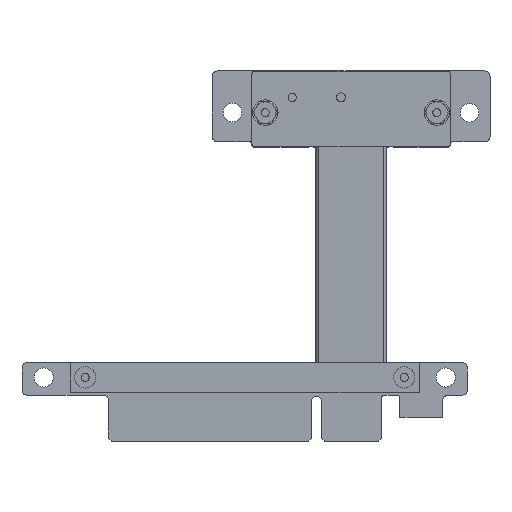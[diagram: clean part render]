
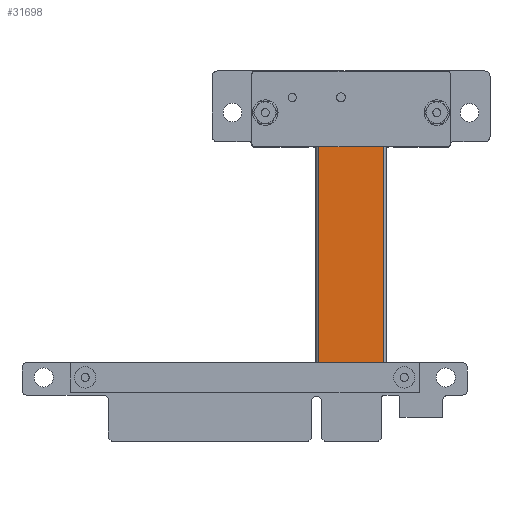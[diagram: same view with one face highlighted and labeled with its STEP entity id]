
A CAD part, top view. The second image highlights one B-rep face of the part: STEP entity #31698.
In plain terms, the highlighted planar face has unit normal (0, 0, 1) as drawn and (0, 1, 0) by its records, which use the part's own axes.
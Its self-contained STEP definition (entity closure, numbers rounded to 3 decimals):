
#31670 = VERTEX_POINT('',#31671);
#31671 = CARTESIAN_POINT('',(0.,0.,
    0.));
#31678 = EDGE_CURVE('',#31679,#31670,#31681,.T.);
#31679 = VERTEX_POINT('',#31680);
#31680 = CARTESIAN_POINT('',(0.,0.,
    -43.));
#31681 = LINE('',#31682,#31683);
#31682 = CARTESIAN_POINT('',(0.,0.,
    -43.));
#31683 = VECTOR('',#31684,1.);
#31684 = DIRECTION('',(0.,0.,1.));
#31698 = ADVANCED_FACE('',(#31699),#31724,.T.);
#31699 = FACE_BOUND('',#31700,.T.);
#31700 = EDGE_LOOP('',(#31701,#31709,#31717,#31723));
#31701 = ORIENTED_EDGE('',*,*,#31702,.F.);
#31702 = EDGE_CURVE('',#31703,#31670,#31705,.T.);
#31703 = VERTEX_POINT('',#31704);
#31704 = CARTESIAN_POINT('',(12.065,0.,0.
    ));
#31705 = LINE('',#31706,#31707);
#31706 = CARTESIAN_POINT('',(0.,0.,
    0.));
#31707 = VECTOR('',#31708,1.);
#31708 = DIRECTION('',(-1.,0.,0.));
#31709 = ORIENTED_EDGE('',*,*,#31710,.F.);
#31710 = EDGE_CURVE('',#31711,#31703,#31713,.T.);
#31711 = VERTEX_POINT('',#31712);
#31712 = CARTESIAN_POINT('',(12.065,0.,-43.));
#31713 = LINE('',#31714,#31715);
#31714 = CARTESIAN_POINT('',(12.065,0.,-43.));
#31715 = VECTOR('',#31716,1.);
#31716 = DIRECTION('',(0.,0.,1.));
#31717 = ORIENTED_EDGE('',*,*,#31718,.T.);
#31718 = EDGE_CURVE('',#31711,#31679,#31719,.T.);
#31719 = LINE('',#31720,#31721);
#31720 = CARTESIAN_POINT('',(0.,0.,
    -43.));
#31721 = VECTOR('',#31722,1.);
#31722 = DIRECTION('',(-1.,0.,0.));
#31723 = ORIENTED_EDGE('',*,*,#31678,.T.);
#31724 = PLANE('',#31725);
#31725 = AXIS2_PLACEMENT_3D('',#31726,#31727,#31728);
#31726 = CARTESIAN_POINT('',(0.,0.,
    -43.));
#31727 = DIRECTION('',(0.,1.,0.));
#31728 = DIRECTION('',(0.,0.,1.));
